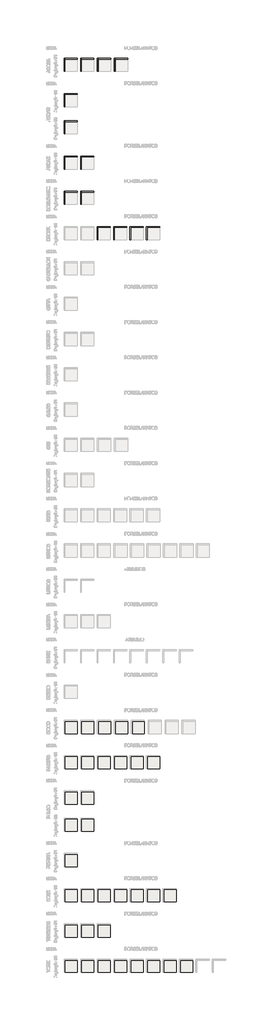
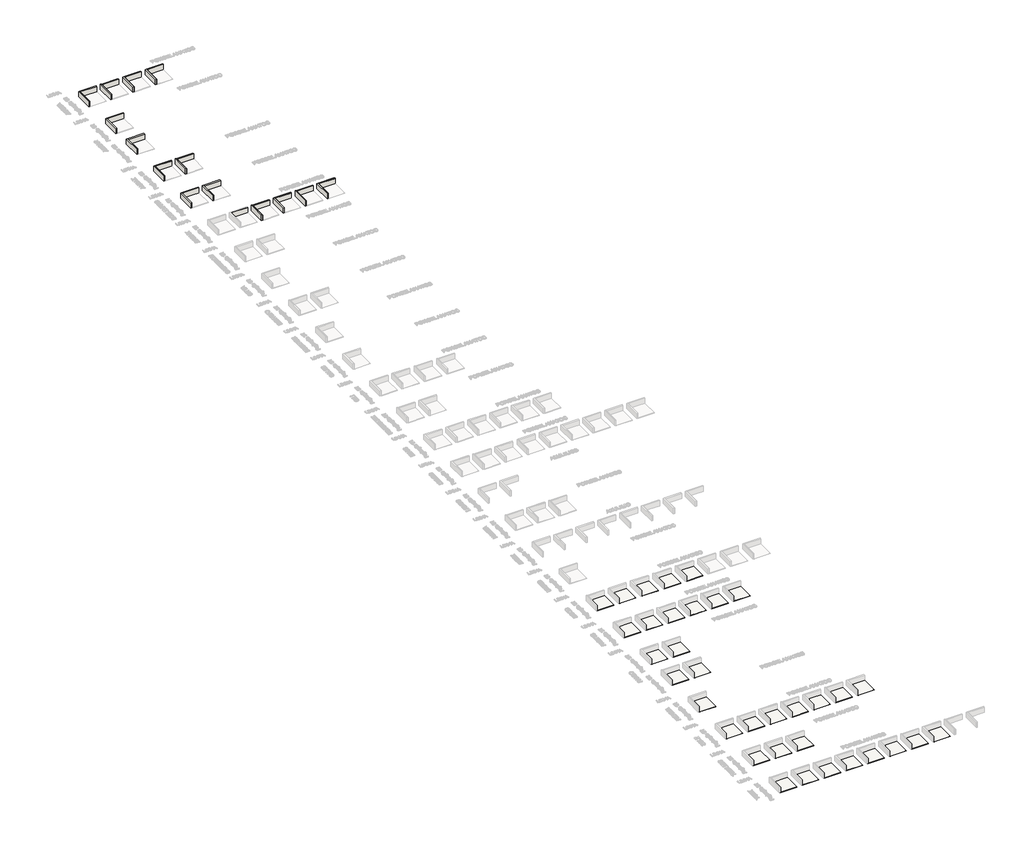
# One storey, part 5 of 22: 57 walls, 34 slabs.
"""IFC4 building model written with IfcOpenShell, lengths in millimetres."""

from ifc_helpers import new_model, si_unit, frame, origin, origin_with_axes, place, context, project, spatial, polyline, outline, extrude, faceted_brep, element, save

model = new_model("IFC4")

# Units and contexts
model_context = context("Model", 3, world=origin())
ifc_project = project(units=[si_unit("LENGTHUNIT", "METRE", prefix="MILLI")], contexts=[model_context])

# Site, building, storey
site = spatial("IfcSite", under=ifc_project)
building = spatial("IfcBuilding", under=site)
storey = spatial("IfcBuildingStorey", under=building, Name="Showroom (N.A.)", Elevation=0.0)

# Slabs
placement = place(None, origin())
element("IfcSlab", 1, ObjectType="Portinari_Mood_WH_LUX_15x15_Pag-1/1", at=placement, inside=storey, context=model_context, shape_type="SweptSolid", body=[
    extrude(outline(polyline([(-107054.0516826, -168275.7728011), (-110054.0516826, -168275.7728011), (-110054.0516826, -165275.7728011), (-107054.0516826, -165275.7728011), (-107054.0516826, -168275.7728011)])), frame((0.0, 0.0, -62.4), z_axis=(0.0, 0.0, 1.0), x_axis=(1.0, 0.0, 0.0)), (0.0, 0.0, 1.0), 62.4),
])
element("IfcSlab", 2, ObjectType="Portinari_Mood_GR_LUX_15x15_Pag-1/1", at=placement, inside=storey, context=model_context, shape_type="SweptSolid", body=[
    extrude(outline(polyline([(-98954.0516826, -168275.7728011), (-101954.0516826, -168275.7728011), (-101954.0516826, -165275.7728011), (-98954.0516826, -165275.7728011), (-98954.0516826, -168275.7728011)])), frame((0.0, 0.0, -62.4), z_axis=(0.0, 0.0, 1.0), x_axis=(1.0, 0.0, 0.0)), (0.0, 0.0, 1.0), 62.4),
])
element("IfcSlab", 3, ObjectType="Portinari_Mood_BW_LUX_15x15_Pag-1/1", at=placement, inside=storey, context=model_context, shape_type="SweptSolid", body=[
    extrude(outline(polyline([(-94854.0516826, -168275.7728011), (-97854.0516826, -168275.7728011), (-97854.0516826, -165275.7728011), (-94854.0516826, -165275.7728011), (-94854.0516826, -168275.7728011)])), frame((0.0, 0.0, -62.4), z_axis=(0.0, 0.0, 1.0), x_axis=(1.0, 0.0, 0.0)), (0.0, 0.0, 1.0), 62.4),
])
element("IfcSlab", 4, ObjectType="Portinari_Mood_AL_LUX_15x15_Pag-1/1", at=placement, inside=storey, context=model_context, shape_type="SweptSolid", body=[
    extrude(outline(polyline([(-103054.0516826, -168275.7728011), (-106054.0516826, -168275.7728011), (-106054.0516826, -165275.7728011), (-103054.0516826, -165275.7728011), (-103054.0516826, -168275.7728011)])), frame((0.0, 0.0, -62.4), z_axis=(0.0, 0.0, 1.0), x_axis=(1.0, 0.0, 0.0)), (0.0, 0.0, 1.0), 62.4),
])
element("IfcSlab", 5, ObjectType="Portinari_Mood_GN_LUX_15x15_Pag-1/1", at=placement, inside=storey, context=model_context, shape_type="SweptSolid", body=[
    extrude(outline(polyline([(-90754.0516826, -168275.7728011), (-93754.0516826, -168275.7728011), (-93754.0516826, -165275.7728011), (-90754.0516826, -165275.7728011), (-90754.0516826, -168275.7728011)])), frame((0.0, 0.0, -62.4), z_axis=(0.0, 0.0, 1.0), x_axis=(1.0, 0.0, 0.0)), (0.0, 0.0, 1.0), 62.4),
])
element("IfcSlab", 6, ObjectType="Portinari_Borda_Mini_Pacific_SBL_HARD_13x201,3_Pag-1/1", at=placement, inside=storey, context=model_context, shape_type="SweptSolid", body=[
    extrude(outline(polyline([(-107054.0516826, -176839.14368), (-110054.0516826, -176839.14368), (-110054.0516826, -173839.14368), (-107054.0516826, -173839.14368), (-107054.0516826, -176839.14368)])), frame((0.0, 0.0, -62.4), z_axis=(0.0, 0.0, 1.0), x_axis=(1.0, 0.0, 0.0)), (0.0, 0.0, 1.0), 62.4),
])
element("IfcSlab", 7, ObjectType="Portinari_Borda_Mini_Pacific_SGN_HARD_13x201,3_Pag-1/1", at=placement, inside=storey, context=model_context, shape_type="SweptSolid", body=[
    extrude(outline(polyline([(-103054.0516826, -176839.14368), (-106054.0516826, -176839.14368), (-106054.0516826, -173839.14368), (-103054.0516826, -173839.14368), (-103054.0516826, -176839.14368)])), frame((0.0, 0.0, -62.4), z_axis=(0.0, 0.0, 1.0), x_axis=(1.0, 0.0, 0.0)), (0.0, 0.0, 1.0), 62.4),
])
element("IfcSlab", 8, ObjectType="Portinari_Pacific_SBL_HARD_20,13x20,13_Pag-1/1", at=placement, inside=storey, context=model_context, shape_type="SweptSolid", body=[
    extrude(outline(polyline([(-99054.0516826, -176839.14368), (-102054.0516826, -176839.14368), (-102054.0516826, -173839.14368), (-99054.0516826, -173839.14368), (-99054.0516826, -176839.14368)])), frame((0.0, 0.0, -62.4), z_axis=(0.0, 0.0, 1.0), x_axis=(1.0, 0.0, 0.0)), (0.0, 0.0, 1.0), 62.4),
])
element("IfcSlab", 9, ObjectType="Portinari_Pacific_SBL_LUX_20,13x20,13_Pag-1/1", at=placement, inside=storey, context=model_context, shape_type="SweptSolid", body=[
    extrude(outline(polyline([(-95054.0516826, -176839.14368), (-98054.0516826, -176839.14368), (-98054.0516826, -173839.14368), (-95054.0516826, -173839.14368), (-95054.0516826, -176839.14368)])), frame((0.0, 0.0, -62.4), z_axis=(0.0, 0.0, 1.0), x_axis=(1.0, 0.0, 0.0)), (0.0, 0.0, 1.0), 62.4),
])
element("IfcSlab", 10, ObjectType="Portinari_Pacific_SGN_HARD_20,13x20,13_Pag-1/1", at=placement, inside=storey, context=model_context, shape_type="SweptSolid", body=[
    extrude(outline(polyline([(-91054.0516826, -176839.14368), (-94054.0516826, -176839.14368), (-94054.0516826, -173839.14368), (-91054.0516826, -173839.14368), (-91054.0516826, -176839.14368)])), frame((0.0, 0.0, -62.4), z_axis=(0.0, 0.0, 1.0), x_axis=(1.0, 0.0, 0.0)), (0.0, 0.0, 1.0), 62.4),
])
element("IfcSlab", 11, ObjectType="Portinari_Pacific_SGN_LUX_20,13x20,13_Pag-1/1", at=placement, inside=storey, context=model_context, shape_type="SweptSolid", body=[
    extrude(outline(polyline([(-87054.0516826, -176839.14368), (-90054.0516826, -176839.14368), (-90054.0516826, -173839.14368), (-87054.0516826, -173839.14368), (-87054.0516826, -176839.14368)])), frame((0.0, 0.0, -62.4), z_axis=(0.0, 0.0, 1.0), x_axis=(1.0, 0.0, 0.0)), (0.0, 0.0, 1.0), 62.4),
])
element("IfcSlab", 12, ObjectType="Portinari_Palco_Deck_BE_HARD_19x117_Pag-1/1", at=placement, inside=storey, context=model_context, shape_type="SweptSolid", body=[
    extrude(outline(polyline([(-107054.0516826, -185402.5145588), (-110054.0516826, -185402.5145588), (-110054.0516826, -182402.5145588), (-107054.0516826, -182402.5145588), (-107054.0516826, -185402.5145588)])), frame((0.0, 0.0, -65.0), z_axis=(0.0, 0.0, 1.0), x_axis=(1.0, 0.0, 0.0)), (0.0, 0.0, 1.0), 65.0),
])
element("IfcSlab", 13, ObjectType="Portinari_Palco_Deck_BE_HARD_19x117_Pag-1/2", at=placement, inside=storey, context=model_context, shape_type="SweptSolid", body=[
    extrude(outline(polyline([(-107054.0516826, -192002.5145588), (-110054.0516826, -192002.5145588), (-110054.0516826, -189002.5145588), (-107054.0516826, -189002.5145588), (-107054.0516826, -192002.5145588)])), frame((0.0, 0.0, -65.0), z_axis=(0.0, 0.0, 1.0), x_axis=(1.0, 0.0, 0.0)), (0.0, 0.0, 1.0), 65.0),
])
element("IfcSlab", 14, ObjectType="Portinari_Palco_Deck_BW_HARD_19x117_Pag-1/1", at=placement, inside=storey, context=model_context, shape_type="SweptSolid", body=[
    extrude(outline(polyline([(-103054.0516826, -185402.5145588), (-106054.0516826, -185402.5145588), (-106054.0516826, -182402.5145588), (-103054.0516826, -182402.5145588), (-103054.0516826, -185402.5145588)])), frame((0.0, 0.0, -65.0), z_axis=(0.0, 0.0, 1.0), x_axis=(1.0, 0.0, 0.0)), (0.0, 0.0, 1.0), 65.0),
])
element("IfcSlab", 15, ObjectType="Portinari_Palco_Deck_BW_HARD_19x117_Pag-1/2", at=placement, inside=storey, context=model_context, shape_type="SweptSolid", body=[
    extrude(outline(polyline([(-103054.0516826, -192002.5145588), (-106054.0516826, -192002.5145588), (-106054.0516826, -189002.5145588), (-103054.0516826, -189002.5145588), (-103054.0516826, -192002.5145588)])), frame((0.0, 0.0, -65.0), z_axis=(0.0, 0.0, 1.0), x_axis=(1.0, 0.0, 0.0)), (0.0, 0.0, 1.0), 65.0),
])
element("IfcSlab", 16, ObjectType="Portinari_Pierina_BK_NAT_80x160_Pag-1/1", at=placement, inside=storey, context=model_context, shape_type="SweptSolid", body=[
    extrude(outline(polyline([(-107054.0516826, -200565.8854377), (-110054.0516826, -200565.8854377), (-110054.0516826, -197565.8854377), (-107054.0516826, -197565.8854377), (-107054.0516826, -200565.8854377)])), frame((0.0, 0.0, -64.0), z_axis=(0.0, 0.0, 1.0), x_axis=(1.0, 0.0, 0.0)), (0.0, 0.0, 1.0), 64.0),
])
element("IfcSlab", 17, ObjectType="Portinari_Sole_BW_NAT_100x100_Pag-1/1", at=placement, inside=storey, context=model_context, shape_type="SweptSolid", body=[
    extrude(outline(polyline([(-107054.0516826, -209129.2563166), (-110054.0516826, -209129.2563166), (-110054.0516826, -206129.2563166), (-107054.0516826, -206129.2563166), (-107054.0516826, -209129.2563166)])), frame((0.0, 0.0, -65.0), z_axis=(0.0, 0.0, 1.0), x_axis=(1.0, 0.0, 0.0)), (0.0, 0.0, 1.0), 65.0),
])
element("IfcSlab", 18, ObjectType="Portinari_Sole_BW_HARD_100x100_Pag-1/1", at=placement, inside=storey, context=model_context, shape_type="SweptSolid", body=[
    extrude(outline(polyline([(-106054.0516826, -206129.2563166), (-103054.0516826, -206129.2563166), (-103054.0516826, -209129.2563166), (-106054.0516826, -209129.2563166), (-106054.0516826, -206129.2563166)])), frame((0.0, 0.0, -65.0), z_axis=(0.0, 0.0, 1.0), x_axis=(1.0, 0.0, 0.0)), (0.0, 0.0, 1.0), 65.0),
])
element("IfcSlab", 19, ObjectType="Portinari_Sole_Decor_GN_NAT_4,82x40_Pag-1/1", at=placement, inside=storey, context=model_context, shape_type="SweptSolid", body=[
    extrude(outline(polyline([(-102054.0516826, -206129.2563166), (-99054.0516826, -206129.2563166), (-99054.0516826, -209129.2563166), (-102054.0516826, -209129.2563166), (-102054.0516826, -206129.2563166)])), frame((0.0, 0.0, -62.4), z_axis=(0.0, 0.0, 1.0), x_axis=(1.0, 0.0, 0.0)), (0.0, 0.0, 1.0), 62.4),
])
element("IfcSlab", 20, ObjectType="Portinari_Sole_Decor_YL_NAT_4,82x40_Pag-1/1", at=placement, inside=storey, context=model_context, shape_type="SweptSolid", body=[
    extrude(outline(polyline([(-98054.0516826, -206129.2563166), (-95054.0516826, -206129.2563166), (-95054.0516826, -209129.2563166), (-98054.0516826, -209129.2563166), (-98054.0516826, -206129.2563166)])), frame((0.0, 0.0, -62.4), z_axis=(0.0, 0.0, 1.0), x_axis=(1.0, 0.0, 0.0)), (0.0, 0.0, 1.0), 62.4),
])
element("IfcSlab", 21, ObjectType="Portinari_Sole_Decor_SBE_NAT_4,82x40_Pag-1/1", at=placement, inside=storey, context=model_context, shape_type="SweptSolid", body=[
    extrude(outline(polyline([(-94054.0516826, -206129.2563166), (-91054.0516826, -206129.2563166), (-91054.0516826, -209129.2563166), (-94054.0516826, -209129.2563166), (-94054.0516826, -206129.2563166)])), frame((0.0, 0.0, -62.4), z_axis=(0.0, 0.0, 1.0), x_axis=(1.0, 0.0, 0.0)), (0.0, 0.0, 1.0), 62.4),
])
element("IfcSlab", 22, ObjectType="Portinari_Sole_Decor_NO_NAT_4,82x40_Pag-1/1", at=placement, inside=storey, context=model_context, shape_type="SweptSolid", body=[
    extrude(outline(polyline([(-90054.0516826, -206129.2563166), (-87054.0516826, -206129.2563166), (-87054.0516826, -209129.2563166), (-90054.0516826, -209129.2563166), (-90054.0516826, -206129.2563166)])), frame((0.0, 0.0, -62.4), z_axis=(0.0, 0.0, 1.0), x_axis=(1.0, 0.0, 0.0)), (0.0, 0.0, 1.0), 62.4),
])
element("IfcSlab", 23, ObjectType="Portinari_Sole_Decor_BW_NAT_4,82x40_Pag-1/1", at=placement, inside=storey, context=model_context, shape_type="SweptSolid", body=[
    extrude(outline(polyline([(-86054.0516826, -206129.2563166), (-83054.0516826, -206129.2563166), (-83054.0516826, -209129.2563166), (-86054.0516826, -209129.2563166), (-86054.0516826, -206129.2563166)])), frame((0.0, 0.0, -62.4), z_axis=(0.0, 0.0, 1.0), x_axis=(1.0, 0.0, 0.0)), (0.0, 0.0, 1.0), 62.4),
])
element("IfcSlab", 24, ObjectType="Portinari_Timeless_WH_NAT_120x120_Pag-1/1", at=placement, inside=storey, context=model_context, shape_type="SweptSolid", body=[
    extrude(outline(polyline([(-107054.0516826, -217692.6271954), (-110054.0516826, -217692.6271954), (-110054.0516826, -214692.6271954), (-107054.0516826, -214692.6271954), (-107054.0516826, -217692.6271954)])), frame((0.0, 0.0, -64.2), z_axis=(0.0, 0.0, 1.0), x_axis=(1.0, 0.0, 0.0)), (0.0, 0.0, 1.0), 64.2),
])
element("IfcSlab", 25, ObjectType="Portinari_Timeless_WH_POL_120x120_Pag-1/1", at=placement, inside=storey, context=model_context, shape_type="SweptSolid", body=[
    extrude(outline(polyline([(-106054.0516826, -214692.6271954), (-103054.0516826, -214692.6271954), (-103054.0516826, -217692.6271954), (-106054.0516826, -217692.6271954), (-106054.0516826, -214692.6271954)])), frame((0.0, 0.0, -64.2), z_axis=(0.0, 0.0, 1.0), x_axis=(1.0, 0.0, 0.0)), (0.0, 0.0, 1.0), 64.2),
])
element("IfcSlab", 26, ObjectType="Portinari_Timeless_WH_POL_120x270_Pag-1/1", at=placement, inside=storey, context=model_context, shape_type="SweptSolid", body=[
    extrude(outline(polyline([(-102054.0516826, -214692.6271954), (-99054.0516826, -214692.6271954), (-99054.0516826, -217692.6271954), (-102054.0516826, -217692.6271954), (-102054.0516826, -214692.6271954)])), frame((0.0, 0.0, -64.0), z_axis=(0.0, 0.0, 1.0), x_axis=(1.0, 0.0, 0.0)), (0.0, 0.0, 1.0), 64.0),
])
element("IfcSlab", 27, ObjectType="Portinari_York_BE_NAT_120x120_Pag-1/1", at=placement, inside=storey, context=model_context, shape_type="SweptSolid", body=[
    extrude(outline(polyline([(-107054.0516826, -226255.9980743), (-110054.0516826, -226255.9980743), (-110054.0516826, -223255.9980743), (-107054.0516826, -223255.9980743), (-107054.0516826, -226255.9980743)])), frame((0.0, 0.0, -64.2), z_axis=(0.0, 0.0, 1.0), x_axis=(1.0, 0.0, 0.0)), (0.0, 0.0, 1.0), 64.2),
])
element("IfcSlab", 28, ObjectType="Portinari_York_BE_HARD_120x120_Pag-1/1", at=placement, inside=storey, context=model_context, shape_type="SweptSolid", body=[
    extrude(outline(polyline([(-106054.0516826, -223255.9980743), (-103054.0516826, -223255.9980743), (-103054.0516826, -226255.9980743), (-106054.0516826, -226255.9980743), (-106054.0516826, -223255.9980743)])), frame((0.0, 0.0, -64.2), z_axis=(0.0, 0.0, 1.0), x_axis=(1.0, 0.0, 0.0)), (0.0, 0.0, 1.0), 64.2),
])
element("IfcSlab", 29, ObjectType="Portinari_York_SGR_NAT_120x120_Pag-1/1", at=placement, inside=storey, context=model_context, shape_type="SweptSolid", body=[
    extrude(outline(polyline([(-102054.0516826, -223255.9980743), (-99054.0516826, -223255.9980743), (-99054.0516826, -226255.9980743), (-102054.0516826, -226255.9980743), (-102054.0516826, -223255.9980743)])), frame((0.0, 0.0, -64.2), z_axis=(0.0, 0.0, 1.0), x_axis=(1.0, 0.0, 0.0)), (0.0, 0.0, 1.0), 64.2),
])
element("IfcSlab", 30, ObjectType="Portinari_York_SGR_HARD_120x120_Pag-1/1", at=placement, inside=storey, context=model_context, shape_type="SweptSolid", body=[
    extrude(outline(polyline([(-98054.0516826, -223255.9980743), (-95054.0516826, -223255.9980743), (-95054.0516826, -226255.9980743), (-98054.0516826, -226255.9980743), (-98054.0516826, -223255.9980743)])), frame((0.0, 0.0, -64.2), z_axis=(0.0, 0.0, 1.0), x_axis=(1.0, 0.0, 0.0)), (0.0, 0.0, 1.0), 64.2),
])
element("IfcSlab", 31, ObjectType="Portinari_York_WH_NAT_120x120_Pag-1/1", at=placement, inside=storey, context=model_context, shape_type="SweptSolid", body=[
    extrude(outline(polyline([(-94054.0516826, -223255.9980743), (-91054.0516826, -223255.9980743), (-91054.0516826, -226255.9980743), (-94054.0516826, -226255.9980743), (-94054.0516826, -223255.9980743)])), frame((0.0, 0.0, -64.2), z_axis=(0.0, 0.0, 1.0), x_axis=(1.0, 0.0, 0.0)), (0.0, 0.0, 1.0), 64.2),
])
element("IfcSlab", 32, ObjectType="Portinari_York_BE_POL_120x120_Pag-1/1", at=placement, inside=storey, context=model_context, shape_type="SweptSolid", body=[
    extrude(outline(polyline([(-90054.0516826, -223255.9980743), (-87054.0516826, -223255.9980743), (-87054.0516826, -226255.9980743), (-90054.0516826, -226255.9980743), (-90054.0516826, -223255.9980743)])), frame((0.0, 0.0, -64.2), z_axis=(0.0, 0.0, 1.0), x_axis=(1.0, 0.0, 0.0)), (0.0, 0.0, 1.0), 64.2),
])
element("IfcSlab", 33, ObjectType="Portinari_York_SGR_POL_120x120_Pag-1/1", at=placement, inside=storey, context=model_context, shape_type="SweptSolid", body=[
    extrude(outline(polyline([(-86054.0516826, -223255.9980743), (-83054.0516826, -223255.9980743), (-83054.0516826, -226255.9980743), (-86054.0516826, -226255.9980743), (-86054.0516826, -223255.9980743)])), frame((0.0, 0.0, -64.2), z_axis=(0.0, 0.0, 1.0), x_axis=(1.0, 0.0, 0.0)), (0.0, 0.0, 1.0), 64.2),
])
element("IfcSlab", 34, ObjectType="Portinari_York_WH_POL_120x120_Pag-1/1", at=placement, inside=storey, context=model_context, shape_type="SweptSolid", body=[
    extrude(outline(polyline([(-82054.0516826, -223255.9980743), (-79054.0516826, -223255.9980743), (-79054.0516826, -226255.9980743), (-82054.0516826, -226255.9980743), (-82054.0516826, -223255.9980743)])), frame((0.0, 0.0, -64.2), z_axis=(0.0, 0.0, 1.0), x_axis=(1.0, 0.0, 0.0)), (0.0, 0.0, 1.0), 64.2),
])

# Walls
element("IfcWall", 35, ObjectType="Portinari_Acqua_GN_NAT_9,95X9,95_Pag-1/1", at=placement, inside=storey, context=model_context, shape_type="Brep", body=[
    faceted_brep([(-107054.0516826, -4535.0969817, 0.0), (-110054.0516826, -4535.0969817, 0.0), (-110054.0516826, -4535.0969817, 1000.0), (-107054.0516826, -4535.0969817, 1000.0), (-107054.0516826, -4547.4969817, 0.0), (-107054.0516826, -4547.4969817, 1000.0), (-110041.6516826, -4547.4969817, 1000.0), (-110054.0516826, -4547.4969817, 1000.0), (-110054.0516826, -4547.4969817, 0.0), (-110041.6516826, -4547.4969817, 0.0)], [[[0, 1, 2, 3]], [[4, 5, 6, 7, 8, 9]], [[1, 0, 4, 9, 8]], [[3, 2, 7, 6, 5]], [[0, 3, 5, 4]], [[2, 1, 8, 7]]]),
])
element("IfcWall", 36, ObjectType="Portinari_Acqua_GN_NAT_9,95X9,95_Pag-1/1", at=placement, inside=storey, context=model_context, shape_type="SweptSolid", body=[
    extrude(outline(polyline([(-110054.0516826, -7535.0969817), (-110054.0516826, -4547.4969817), (-110041.6516826, -4547.4969817), (-110041.6516826, -7535.0969817), (-110054.0516826, -7535.0969817)])), origin_with_axes(), (0.0, 0.0, 1.0), 1000.0),
])
element("IfcWall", 37, ObjectType="Portinari_Acqua_GN_NAT_15x15_Pag-1/1", at=placement, inside=storey, context=model_context, shape_type="Brep", body=[
    faceted_brep([(-103054.0516826, -4535.0969817, 0.0), (-106054.0516826, -4535.0969817, 0.0), (-106054.0516826, -4535.0969817, 1000.0), (-103054.0516826, -4535.0969817, 1000.0), (-103054.0516826, -4547.4969817, 0.0), (-103054.0516826, -4547.4969817, 1000.0), (-106041.6516826, -4547.4969817, 1000.0), (-106054.0516826, -4547.4969817, 1000.0), (-106054.0516826, -4547.4969817, 0.0), (-106041.6516826, -4547.4969817, 0.0)], [[[0, 1, 2, 3]], [[4, 5, 6, 7, 8, 9]], [[1, 0, 4, 9, 8]], [[3, 2, 7, 6, 5]], [[0, 3, 5, 4]], [[2, 1, 8, 7]]]),
])
element("IfcWall", 38, ObjectType="Portinari_Acqua_GN_NAT_15x15_Pag-1/1", at=placement, inside=storey, context=model_context, shape_type="SweptSolid", body=[
    extrude(outline(polyline([(-106054.0516826, -7535.0969817), (-106054.0516826, -4547.4969817), (-106041.6516826, -4547.4969817), (-106041.6516826, -7535.0969817), (-106054.0516826, -7535.0969817)])), origin_with_axes(), (0.0, 0.0, 1.0), 1000.0),
])
element("IfcWall", 39, ObjectType="Portinari_Acqua_OFW_15x15_Pag-1/1", at=placement, inside=storey, context=model_context, shape_type="Brep", body=[
    faceted_brep([(-98954.0516826, -4535.0969817, 0.0), (-101954.0516826, -4535.0969817, 0.0), (-101954.0516826, -4535.0969817, 1000.0), (-98954.0516826, -4535.0969817, 1000.0), (-98954.0516826, -4547.4969817, 0.0), (-98954.0516826, -4547.4969817, 1000.0), (-101941.6516826, -4547.4969817, 1000.0), (-101954.0516826, -4547.4969817, 1000.0), (-101954.0516826, -4547.4969817, 0.0), (-101941.6516826, -4547.4969817, 0.0)], [[[0, 1, 2, 3]], [[4, 5, 6, 7, 8, 9]], [[1, 0, 4, 9, 8]], [[3, 2, 7, 6, 5]], [[0, 3, 5, 4]], [[2, 1, 8, 7]]]),
])
element("IfcWall", 40, ObjectType="Portinari_Acqua_OFW_15x15_Pag-1/1", at=placement, inside=storey, context=model_context, shape_type="SweptSolid", body=[
    extrude(outline(polyline([(-101954.0516826, -7535.0969817), (-101954.0516826, -4547.4969817), (-101941.6516826, -4547.4969817), (-101941.6516826, -7535.0969817), (-101954.0516826, -7535.0969817)])), origin_with_axes(), (0.0, 0.0, 1.0), 1000.0),
])
element("IfcWall", 41, ObjectType="Portinari_Acqua_SGN_15x15_Pag-1/1", at=placement, inside=storey, context=model_context, shape_type="Brep", body=[
    faceted_brep([(-94854.0516826, -4535.0969817, 0.0), (-97854.0516826, -4535.0969817, 0.0), (-97854.0516826, -4535.0969817, 1000.0), (-94854.0516826, -4535.0969817, 1000.0), (-94854.0516826, -4547.4969817, 0.0), (-94854.0516826, -4547.4969817, 1000.0), (-97841.6516826, -4547.4969817, 1000.0), (-97854.0516826, -4547.4969817, 1000.0), (-97854.0516826, -4547.4969817, 0.0), (-97841.6516826, -4547.4969817, 0.0)], [[[0, 1, 2, 3]], [[4, 5, 6, 7, 8, 9]], [[1, 0, 4, 9, 8]], [[3, 2, 7, 6, 5]], [[0, 3, 5, 4]], [[2, 1, 8, 7]]]),
])
element("IfcWall", 42, ObjectType="Portinari_Acqua_SGN_15x15_Pag-1/1", at=placement, inside=storey, context=model_context, shape_type="SweptSolid", body=[
    extrude(outline(polyline([(-97854.0516826, -7535.0969817), (-97854.0516826, -4547.4969817), (-97841.6516826, -4547.4969817), (-97841.6516826, -7535.0969817), (-97854.0516826, -7535.0969817)])), origin_with_axes(), (0.0, 0.0, 1.0), 1000.0),
])
element("IfcWall", 43, ObjectType="Portinari_Ambar_BW_NAT_29,1x117_Pag-1/1", at=placement, inside=storey, context=model_context, shape_type="Brep", body=[
    faceted_brep([(-107054.0516826, -13098.4678605, 0.0), (-110054.0516826, -13098.4678605, 0.0), (-110054.0516826, -13098.4678605, 1000.0), (-107054.0516826, -13098.4678605, 1000.0), (-107054.0516826, -13113.6678605, 0.0), (-107054.0516826, -13113.6678605, 1000.0), (-110038.8516826, -13113.6678605, 1000.0), (-110054.0516826, -13113.6678605, 1000.0), (-110054.0516826, -13113.6678605, 0.0), (-110038.8516826, -13113.6678605, 0.0)], [[[0, 1, 2, 3]], [[4, 5, 6, 7, 8, 9]], [[1, 0, 4, 9, 8]], [[3, 2, 7, 6, 5]], [[0, 3, 5, 4]], [[2, 1, 8, 7]]]),
])
element("IfcWall", 44, ObjectType="Portinari_Ambar_BW_NAT_29,1x117_Pag-1/1", at=placement, inside=storey, context=model_context, shape_type="SweptSolid", body=[
    extrude(outline(polyline([(-110054.0516826, -16098.4678605), (-110054.0516826, -13113.6678605), (-110038.8516826, -13113.6678605), (-110038.8516826, -16098.4678605), (-110054.0516826, -16098.4678605)])), origin_with_axes(), (0.0, 0.0, 1.0), 1000.0),
])
element("IfcWall", 45, ObjectType="Portinari_Ambar_BW_NAT_29,1x117_Pag-1/2", at=placement, inside=storey, context=model_context, shape_type="Brep", body=[
    faceted_brep([(-107054.0516826, -19698.4678605, 0.0), (-110054.0516826, -19698.4678605, 0.0), (-110054.0516826, -19698.4678605, 1000.0), (-107054.0516826, -19698.4678605, 1000.0), (-107054.0516826, -19713.6678605, 0.0), (-107054.0516826, -19713.6678605, 1000.0), (-110038.8516826, -19713.6678605, 1000.0), (-110054.0516826, -19713.6678605, 1000.0), (-110054.0516826, -19713.6678605, 0.0), (-110038.8516826, -19713.6678605, 0.0)], [[[0, 1, 2, 3]], [[4, 5, 6, 7, 8, 9]], [[1, 0, 4, 9, 8]], [[3, 2, 7, 6, 5]], [[0, 3, 5, 4]], [[2, 1, 8, 7]]]),
])
element("IfcWall", 46, ObjectType="Portinari_Ambar_BW_NAT_29,1x117_Pag-1/2", at=placement, inside=storey, context=model_context, shape_type="SweptSolid", body=[
    extrude(outline(polyline([(-110054.0516826, -22698.4678605), (-110054.0516826, -19713.6678605), (-110038.8516826, -19713.6678605), (-110038.8516826, -22698.4678605), (-110054.0516826, -22698.4678605)])), origin_with_axes(), (0.0, 0.0, 1.0), 1000.0),
])
element("IfcWall", 47, ObjectType="Portinari_Audaz_DGR_NAT_120x120_Pag-1/1", at=placement, inside=storey, context=model_context, shape_type="Brep", body=[
    faceted_brep([(-107054.0516826, -28261.8387394, 0.0), (-110054.0516826, -28261.8387394, 0.0), (-110054.0516826, -28261.8387394, 1000.0), (-107054.0516826, -28261.8387394, 1000.0), (-107054.0516826, -28276.0387394, 0.0), (-107054.0516826, -28276.0387394, 1000.0), (-110039.8516826, -28276.0387394, 1000.0), (-110054.0516826, -28276.0387394, 1000.0), (-110054.0516826, -28276.0387394, 0.0), (-110039.8516826, -28276.0387394, 0.0)], [[[0, 1, 2, 3]], [[4, 5, 6, 7, 8, 9]], [[1, 0, 4, 9, 8]], [[3, 2, 7, 6, 5]], [[0, 3, 5, 4]], [[2, 1, 8, 7]]]),
])
element("IfcWall", 48, ObjectType="Portinari_Audaz_DGR_NAT_120x120_Pag-1/1", at=placement, inside=storey, context=model_context, shape_type="SweptSolid", body=[
    extrude(outline(polyline([(-110054.0516826, -31261.8387394), (-110054.0516826, -28276.0387394), (-110039.8516826, -28276.0387394), (-110039.8516826, -31261.8387394), (-110054.0516826, -31261.8387394)])), origin_with_axes(), (0.0, 0.0, 1.0), 1000.0),
])
element("IfcWall", 49, ObjectType="Portinari_Audaz_DGR_NAT_119,4x280_Pag-1/1", at=placement, inside=storey, context=model_context, shape_type="Brep", body=[
    faceted_brep([(-103054.0516826, -28261.8387394, 0.0), (-106054.0516826, -28261.8387394, 0.0), (-106054.0516826, -28261.8387394, 1000.0), (-103054.0516826, -28261.8387394, 1000.0), (-103054.0516826, -28272.8387394, 0.0), (-103054.0516826, -28272.8387394, 1000.0), (-106043.0516826, -28272.8387394, 1000.0), (-106054.0516826, -28272.8387394, 1000.0), (-106054.0516826, -28272.8387394, 0.0), (-106043.0516826, -28272.8387394, 0.0)], [[[0, 1, 2, 3]], [[4, 5, 6, 7, 8, 9]], [[1, 0, 4, 9, 8]], [[3, 2, 7, 6, 5]], [[0, 3, 5, 4]], [[2, 1, 8, 7]]]),
])
element("IfcWall", 50, ObjectType="Portinari_Audaz_DGR_NAT_119,4x280_Pag-1/1", at=placement, inside=storey, context=model_context, shape_type="SweptSolid", body=[
    extrude(outline(polyline([(-106054.0516826, -31261.8387394), (-106054.0516826, -28272.8387394), (-106043.0516826, -28272.8387394), (-106043.0516826, -31261.8387394), (-106054.0516826, -31261.8387394)])), origin_with_axes(), (0.0, 0.0, 1.0), 1000.0),
])
element("IfcWall", 51, ObjectType="Portinari_Boulevard_SGR_HARD_87,7x87,7_Pag-1/1", at=placement, inside=storey, context=model_context, shape_type="Brep", body=[
    faceted_brep([(-107054.0516826, -36825.2096182, 0.0), (-110054.0516826, -36825.2096182, 0.0), (-110054.0516826, -36825.2096182, 1000.0), (-107054.0516826, -36825.2096182, 1000.0), (-107054.0516826, -36839.2096182, 0.0), (-107054.0516826, -36839.2096182, 1000.0), (-110040.0516826, -36839.2096182, 1000.0), (-110054.0516826, -36839.2096182, 1000.0), (-110054.0516826, -36839.2096182, 0.0), (-110040.0516826, -36839.2096182, 0.0)], [[[0, 1, 2, 3]], [[4, 5, 6, 7, 8, 9]], [[1, 0, 4, 9, 8]], [[3, 2, 7, 6, 5]], [[0, 3, 5, 4]], [[2, 1, 8, 7]]]),
])
element("IfcWall", 52, ObjectType="Portinari_Boulevard_SGR_HARD_87,7x87,7_Pag-1/1", at=placement, inside=storey, context=model_context, shape_type="SweptSolid", body=[
    extrude(outline(polyline([(-110054.0516826, -39825.2096182), (-110054.0516826, -36839.2096182), (-110040.0516826, -36839.2096182), (-110040.0516826, -39825.2096182), (-110054.0516826, -39825.2096182)])), origin_with_axes(), (0.0, 0.0, 1.0), 1000.0),
])
element("IfcWall", 53, ObjectType="Portinari_Boulevard_SGR_NAT_87,7x87,7_Pag-1/1", at=placement, inside=storey, context=model_context, shape_type="Brep", body=[
    faceted_brep([(-103054.0516826, -36825.2096182, 0.0), (-106054.0516826, -36825.2096182, 0.0), (-106054.0516826, -36825.2096182, 1000.0), (-103054.0516826, -36825.2096182, 1000.0), (-103054.0516826, -36839.2096182, 0.0), (-103054.0516826, -36839.2096182, 1000.0), (-106040.0516826, -36839.2096182, 1000.0), (-106054.0516826, -36839.2096182, 1000.0), (-106054.0516826, -36839.2096182, 0.0), (-106040.0516826, -36839.2096182, 0.0)], [[[0, 1, 2, 3]], [[4, 5, 6, 7, 8, 9]], [[1, 0, 4, 9, 8]], [[3, 2, 7, 6, 5]], [[0, 3, 5, 4]], [[2, 1, 8, 7]]]),
])
element("IfcWall", 54, ObjectType="Portinari_Boulevard_SGR_NAT_87,7x87,7_Pag-1/1", at=placement, inside=storey, context=model_context, shape_type="SweptSolid", body=[
    extrude(outline(polyline([(-106054.0516826, -39825.2096182), (-106054.0516826, -36839.2096182), (-106040.0516826, -36839.2096182), (-106040.0516826, -39825.2096182), (-106054.0516826, -39825.2096182)])), origin_with_axes(), (0.0, 0.0, 1.0), 1000.0),
])
element("IfcWall", 55, ObjectType="Portinari_Bronx_GR_HARD_120x120_Pag-1/1", at=placement, inside=storey, context=model_context, shape_type="Brep", body=[
    faceted_brep([(-103054.0516826, -45388.5804971, 0.0), (-106054.0516826, -45388.5804971, 0.0), (-106054.0516826, -45388.5804971, 1000.0), (-103054.0516826, -45388.5804971, 1000.0), (-103054.0516826, -45402.7804971, 0.0), (-103054.0516826, -45402.7804971, 1000.0), (-106039.8516826, -45402.7804971, 1000.0), (-106054.0516826, -45402.7804971, 1000.0), (-106054.0516826, -45402.7804971, 0.0), (-106039.8516826, -45402.7804971, 0.0)], [[[0, 1, 2, 3]], [[4, 5, 6, 7, 8, 9]], [[1, 0, 4, 9, 8]], [[3, 2, 7, 6, 5]], [[0, 3, 5, 4]], [[2, 1, 8, 7]]]),
])
element("IfcWall", 56, ObjectType="Portinari_Bronx_Decor_BK_MLX_7,7x24_Pag-1/1", at=placement, inside=storey, context=model_context, shape_type="Brep", body=[
    faceted_brep([(-99054.0516826, -45388.5804971, 0.0), (-102054.0516826, -45388.5804971, 0.0), (-102054.0516826, -45388.5804971, 1000.0), (-99054.0516826, -45388.5804971, 1000.0), (-99054.0516826, -45400.9804971, 0.0), (-99054.0516826, -45400.9804971, 1000.0), (-102041.6516826, -45400.9804971, 1000.0), (-102054.0516826, -45400.9804971, 1000.0), (-102054.0516826, -45400.9804971, 0.0), (-102041.6516826, -45400.9804971, 0.0)], [[[0, 1, 2, 3]], [[4, 5, 6, 7, 8, 9]], [[1, 0, 4, 9, 8]], [[3, 2, 7, 6, 5]], [[0, 3, 5, 4]], [[2, 1, 8, 7]]]),
])
element("IfcWall", 57, ObjectType="Portinari_Bronx_Decor_BK_MLX_7,7x24_Pag-1/1", at=placement, inside=storey, context=model_context, shape_type="SweptSolid", body=[
    extrude(outline(polyline([(-102054.0516826, -48388.5804971), (-102054.0516826, -45400.9804971), (-102041.6516826, -45400.9804971), (-102041.6516826, -48388.5804971), (-102054.0516826, -48388.5804971)])), origin_with_axes(), (0.0, 0.0, 1.0), 1000.0),
])
element("IfcWall", 58, ObjectType="Portinari_Bronx_Decor_DBL_MLX_7,7x24_Pag-1/1", at=placement, inside=storey, context=model_context, shape_type="Brep", body=[
    faceted_brep([(-95054.0516826, -45388.5804971, 0.0), (-98054.0516826, -45388.5804971, 0.0), (-98054.0516826, -45388.5804971, 1000.0), (-95054.0516826, -45388.5804971, 1000.0), (-95054.0516826, -45400.9804971, 0.0), (-95054.0516826, -45400.9804971, 1000.0), (-98041.6516826, -45400.9804971, 1000.0), (-98054.0516826, -45400.9804971, 1000.0), (-98054.0516826, -45400.9804971, 0.0), (-98041.6516826, -45400.9804971, 0.0)], [[[0, 1, 2, 3]], [[4, 5, 6, 7, 8, 9]], [[1, 0, 4, 9, 8]], [[3, 2, 7, 6, 5]], [[0, 3, 5, 4]], [[2, 1, 8, 7]]]),
])
element("IfcWall", 59, ObjectType="Portinari_Bronx_Decor_DBL_MLX_7,7x24_Pag-1/1", at=placement, inside=storey, context=model_context, shape_type="SweptSolid", body=[
    extrude(outline(polyline([(-98054.0516826, -48388.5804971), (-98054.0516826, -45400.9804971), (-98041.6516826, -45400.9804971), (-98041.6516826, -48388.5804971), (-98054.0516826, -48388.5804971)])), origin_with_axes(), (0.0, 0.0, 1.0), 1000.0),
])
element("IfcWall", 60, ObjectType="Portinari_Bronx_Decor_RD_MLX_7,7x24_Pag-1/1", at=placement, inside=storey, context=model_context, shape_type="Brep", body=[
    faceted_brep([(-91054.0516826, -45388.5804971, 0.0), (-94054.0516826, -45388.5804971, 0.0), (-94054.0516826, -45388.5804971, 1000.0), (-91054.0516826, -45388.5804971, 1000.0), (-91054.0516826, -45400.9804971, 0.0), (-91054.0516826, -45400.9804971, 1000.0), (-94041.6516826, -45400.9804971, 1000.0), (-94054.0516826, -45400.9804971, 1000.0), (-94054.0516826, -45400.9804971, 0.0), (-94041.6516826, -45400.9804971, 0.0)], [[[0, 1, 2, 3]], [[4, 5, 6, 7, 8, 9]], [[1, 0, 4, 9, 8]], [[3, 2, 7, 6, 5]], [[0, 3, 5, 4]], [[2, 1, 8, 7]]]),
])
element("IfcWall", 61, ObjectType="Portinari_Bronx_Decor_RD_MLX_7,7x24_Pag-1/1", at=placement, inside=storey, context=model_context, shape_type="SweptSolid", body=[
    extrude(outline(polyline([(-94054.0516826, -48388.5804971), (-94054.0516826, -45400.9804971), (-94041.6516826, -45400.9804971), (-94041.6516826, -48388.5804971), (-94054.0516826, -48388.5804971)])), origin_with_axes(), (0.0, 0.0, 1.0), 1000.0),
])
element("IfcWall", 62, ObjectType="Portinari_Bronx_Decor_DGR_MLX_7,7x24_Pag-1/1", at=placement, inside=storey, context=model_context, shape_type="Brep", body=[
    faceted_brep([(-87054.0516826, -45388.5804971, 0.0), (-90054.0516826, -45388.5804971, 0.0), (-90054.0516826, -45388.5804971, 1000.0), (-87054.0516826, -45388.5804971, 1000.0), (-87054.0516826, -45400.9804971, 0.0), (-87054.0516826, -45400.9804971, 1000.0), (-90041.6516826, -45400.9804971, 1000.0), (-90054.0516826, -45400.9804971, 1000.0), (-90054.0516826, -45400.9804971, 0.0), (-90041.6516826, -45400.9804971, 0.0)], [[[0, 1, 2, 3]], [[4, 5, 6, 7, 8, 9]], [[1, 0, 4, 9, 8]], [[3, 2, 7, 6, 5]], [[0, 3, 5, 4]], [[2, 1, 8, 7]]]),
])
element("IfcWall", 63, ObjectType="Portinari_Bronx_Decor_DGR_MLX_7,7x24_Pag-1/1", at=placement, inside=storey, context=model_context, shape_type="SweptSolid", body=[
    extrude(outline(polyline([(-90054.0516826, -48388.5804971), (-90054.0516826, -45400.9804971), (-90041.6516826, -45400.9804971), (-90041.6516826, -48388.5804971), (-90054.0516826, -48388.5804971)])), origin_with_axes(), (0.0, 0.0, 1.0), 1000.0),
])
element("IfcWall", 64, ObjectType="Wall 1", at=placement, inside=storey, context=model_context, shape_type="Brep", body=[
    faceted_brep([(-110054.0516826, -7535.0969817, 0.0), (-110054.0516826, -4535.0969817, 0.0), (-110054.0516826, -4335.0969817, 0.0), (-110054.0516826, -4335.0969817, 1000.0), (-110054.0516826, -4535.0969817, 1000.0), (-110054.0516826, -7535.0969817, 1000.0), (-110254.0516826, -7535.0969817, 0.0), (-110254.0516826, -7535.0969817, 1000.0), (-110254.0516826, -4335.0969817, 1000.0), (-110254.0516826, -4335.0969817, 0.0)], [[[0, 1, 2, 3, 4, 5]], [[6, 7, 8, 9]], [[2, 1, 0, 6, 9]], [[5, 4, 3, 8, 7]], [[0, 5, 7, 6]], [[3, 2, 9, 8]]]),
])
element("IfcWall", 65, ObjectType="Wall 1", at=placement, inside=storey, context=model_context, shape_type="SweptSolid", body=[
    extrude(outline(polyline([(-107054.0516826, -4535.0969817), (-110054.0516826, -4535.0969817), (-110054.0516826, -4335.0969817), (-107054.0516826, -4335.0969817), (-107054.0516826, -4535.0969817)])), origin_with_axes(), (0.0, 0.0, 1.0), 1000.0),
])
element("IfcWall", 66, ObjectType="Wall 1", at=placement, inside=storey, context=model_context, shape_type="Brep", body=[
    faceted_brep([(-101954.0516826, -7535.0969817, 0.0), (-101954.0516826, -4535.0969817, 0.0), (-101954.0516826, -4335.0969817, 0.0), (-101954.0516826, -4335.0969817, 1000.0), (-101954.0516826, -4535.0969817, 1000.0), (-101954.0516826, -7535.0969817, 1000.0), (-102154.0516826, -7535.0969817, 0.0), (-102154.0516826, -7535.0969817, 1000.0), (-102154.0516826, -4335.0969817, 1000.0), (-102154.0516826, -4335.0969817, 0.0)], [[[0, 1, 2, 3, 4, 5]], [[6, 7, 8, 9]], [[2, 1, 0, 6, 9]], [[5, 4, 3, 8, 7]], [[0, 5, 7, 6]], [[3, 2, 9, 8]]]),
])
element("IfcWall", 67, ObjectType="Wall 1", at=placement, inside=storey, context=model_context, shape_type="SweptSolid", body=[
    extrude(outline(polyline([(-98954.0516826, -4535.0969817), (-101954.0516826, -4535.0969817), (-101954.0516826, -4335.0969817), (-98954.0516826, -4335.0969817), (-98954.0516826, -4535.0969817)])), origin_with_axes(), (0.0, 0.0, 1.0), 1000.0),
])
element("IfcWall", 68, ObjectType="Wall 1", at=placement, inside=storey, context=model_context, shape_type="Brep", body=[
    faceted_brep([(-97854.0516826, -7535.0969817, 0.0), (-97854.0516826, -4535.0969817, 0.0), (-97854.0516826, -4335.0969817, 0.0), (-97854.0516826, -4335.0969817, 1000.0), (-97854.0516826, -4535.0969817, 1000.0), (-97854.0516826, -7535.0969817, 1000.0), (-98054.0516826, -7535.0969817, 0.0), (-98054.0516826, -7535.0969817, 1000.0), (-98054.0516826, -4335.0969817, 1000.0), (-98054.0516826, -4335.0969817, 0.0)], [[[0, 1, 2, 3, 4, 5]], [[6, 7, 8, 9]], [[2, 1, 0, 6, 9]], [[5, 4, 3, 8, 7]], [[0, 5, 7, 6]], [[3, 2, 9, 8]]]),
])
element("IfcWall", 69, ObjectType="Wall 1", at=placement, inside=storey, context=model_context, shape_type="SweptSolid", body=[
    extrude(outline(polyline([(-94854.0516826, -4535.0969817), (-97854.0516826, -4535.0969817), (-97854.0516826, -4335.0969817), (-94854.0516826, -4335.0969817), (-94854.0516826, -4535.0969817)])), origin_with_axes(), (0.0, 0.0, 1.0), 1000.0),
])
element("IfcWall", 70, ObjectType="Wall 1", at=placement, inside=storey, context=model_context, shape_type="Brep", body=[
    faceted_brep([(-110054.0516826, -16098.4678605, 0.0), (-110054.0516826, -13098.4678605, 0.0), (-110054.0516826, -12898.4678605, 0.0), (-110054.0516826, -12898.4678605, 1000.0), (-110054.0516826, -13098.4678605, 1000.0), (-110054.0516826, -16098.4678605, 1000.0), (-110254.0516826, -16098.4678605, 0.0), (-110254.0516826, -16098.4678605, 1000.0), (-110254.0516826, -12898.4678605, 1000.0), (-110254.0516826, -12898.4678605, 0.0)], [[[0, 1, 2, 3, 4, 5]], [[6, 7, 8, 9]], [[2, 1, 0, 6, 9]], [[5, 4, 3, 8, 7]], [[0, 5, 7, 6]], [[3, 2, 9, 8]]]),
])
element("IfcWall", 71, ObjectType="Wall 1", at=placement, inside=storey, context=model_context, shape_type="SweptSolid", body=[
    extrude(outline(polyline([(-107054.0516826, -13098.4678605), (-110054.0516826, -13098.4678605), (-110054.0516826, -12898.4678605), (-107054.0516826, -12898.4678605), (-107054.0516826, -13098.4678605)])), origin_with_axes(), (0.0, 0.0, 1.0), 1000.0),
])
element("IfcWall", 72, ObjectType="Wall 1", at=placement, inside=storey, context=model_context, shape_type="Brep", body=[
    faceted_brep([(-110054.0516826, -22698.4678605, 0.0), (-110054.0516826, -19698.4678605, 0.0), (-110054.0516826, -19498.4678605, 0.0), (-110054.0516826, -19498.4678605, 1000.0), (-110054.0516826, -19698.4678605, 1000.0), (-110054.0516826, -22698.4678605, 1000.0), (-110254.0516826, -22698.4678605, 0.0), (-110254.0516826, -22698.4678605, 1000.0), (-110254.0516826, -19498.4678605, 1000.0), (-110254.0516826, -19498.4678605, 0.0)], [[[0, 1, 2, 3, 4, 5]], [[6, 7, 8, 9]], [[2, 1, 0, 6, 9]], [[5, 4, 3, 8, 7]], [[0, 5, 7, 6]], [[3, 2, 9, 8]]]),
])
element("IfcWall", 73, ObjectType="Wall 1", at=placement, inside=storey, context=model_context, shape_type="SweptSolid", body=[
    extrude(outline(polyline([(-107054.0516826, -19698.4678605), (-110054.0516826, -19698.4678605), (-110054.0516826, -19498.4678605), (-107054.0516826, -19498.4678605), (-107054.0516826, -19698.4678605)])), origin_with_axes(), (0.0, 0.0, 1.0), 1000.0),
])
element("IfcWall", 74, ObjectType="Wall 1", at=placement, inside=storey, context=model_context, shape_type="Brep", body=[
    faceted_brep([(-110054.0516826, -31261.8387394, 0.0), (-110054.0516826, -28261.8387394, 0.0), (-110054.0516826, -28061.8387394, 0.0), (-110054.0516826, -28061.8387394, 1000.0), (-110054.0516826, -28261.8387394, 1000.0), (-110054.0516826, -31261.8387394, 1000.0), (-110254.0516826, -31261.8387394, 0.0), (-110254.0516826, -31261.8387394, 1000.0), (-110254.0516826, -28061.8387394, 1000.0), (-110254.0516826, -28061.8387394, 0.0)], [[[0, 1, 2, 3, 4, 5]], [[6, 7, 8, 9]], [[2, 1, 0, 6, 9]], [[5, 4, 3, 8, 7]], [[0, 5, 7, 6]], [[3, 2, 9, 8]]]),
])
element("IfcWall", 75, ObjectType="Wall 1", at=placement, inside=storey, context=model_context, shape_type="SweptSolid", body=[
    extrude(outline(polyline([(-107054.0516826, -28261.8387394), (-110054.0516826, -28261.8387394), (-110054.0516826, -28061.8387394), (-107054.0516826, -28061.8387394), (-107054.0516826, -28261.8387394)])), origin_with_axes(), (0.0, 0.0, 1.0), 1000.0),
])
element("IfcWall", 76, ObjectType="Wall 1", at=placement, inside=storey, context=model_context, shape_type="Brep", body=[
    faceted_brep([(-106054.0516826, -31261.8387394, 0.0), (-106054.0516826, -28261.8387394, 0.0), (-106054.0516826, -28061.8387394, 0.0), (-106054.0516826, -28061.8387394, 1000.0), (-106054.0516826, -28261.8387394, 1000.0), (-106054.0516826, -31261.8387394, 1000.0), (-106254.0516826, -31261.8387394, 0.0), (-106254.0516826, -31261.8387394, 1000.0), (-106254.0516826, -28061.8387394, 1000.0), (-106254.0516826, -28061.8387394, 0.0)], [[[0, 1, 2, 3, 4, 5]], [[6, 7, 8, 9]], [[2, 1, 0, 6, 9]], [[5, 4, 3, 8, 7]], [[0, 5, 7, 6]], [[3, 2, 9, 8]]]),
])
element("IfcWall", 77, ObjectType="Wall 1", at=placement, inside=storey, context=model_context, shape_type="SweptSolid", body=[
    extrude(outline(polyline([(-103054.0516826, -28261.8387394), (-106054.0516826, -28261.8387394), (-106054.0516826, -28061.8387394), (-103054.0516826, -28061.8387394), (-103054.0516826, -28261.8387394)])), origin_with_axes(), (0.0, 0.0, 1.0), 1000.0),
])
element("IfcWall", 78, ObjectType="Wall 1", at=placement, inside=storey, context=model_context, shape_type="Brep", body=[
    faceted_brep([(-106054.0516826, -7535.0969817, 0.0), (-106054.0516826, -4535.0969817, 0.0), (-106054.0516826, -4335.0969817, 0.0), (-106054.0516826, -4335.0969817, 1000.0), (-106054.0516826, -4535.0969817, 1000.0), (-106054.0516826, -7535.0969817, 1000.0), (-106254.0516826, -7535.0969817, 0.0), (-106254.0516826, -7535.0969817, 1000.0), (-106254.0516826, -4335.0969817, 1000.0), (-106254.0516826, -4335.0969817, 0.0)], [[[0, 1, 2, 3, 4, 5]], [[6, 7, 8, 9]], [[2, 1, 0, 6, 9]], [[5, 4, 3, 8, 7]], [[0, 5, 7, 6]], [[3, 2, 9, 8]]]),
])
element("IfcWall", 79, ObjectType="Wall 1", at=placement, inside=storey, context=model_context, shape_type="SweptSolid", body=[
    extrude(outline(polyline([(-103054.0516826, -4535.0969817), (-106054.0516826, -4535.0969817), (-106054.0516826, -4335.0969817), (-103054.0516826, -4335.0969817), (-103054.0516826, -4535.0969817)])), origin_with_axes(), (0.0, 0.0, 1.0), 1000.0),
])
element("IfcWall", 80, ObjectType="Wall 1", at=placement, inside=storey, context=model_context, shape_type="Brep", body=[
    faceted_brep([(-110054.0516826, -39825.2096182, 0.0), (-110054.0516826, -36825.2096182, 0.0), (-110054.0516826, -36625.2096182, 0.0), (-110054.0516826, -36625.2096182, 1000.0), (-110054.0516826, -36825.2096182, 1000.0), (-110054.0516826, -39825.2096182, 1000.0), (-110254.0516826, -39825.2096182, 0.0), (-110254.0516826, -39825.2096182, 1000.0), (-110254.0516826, -36625.2096182, 1000.0), (-110254.0516826, -36625.2096182, 0.0)], [[[0, 1, 2, 3, 4, 5]], [[6, 7, 8, 9]], [[2, 1, 0, 6, 9]], [[5, 4, 3, 8, 7]], [[0, 5, 7, 6]], [[3, 2, 9, 8]]]),
])
element("IfcWall", 81, ObjectType="Wall 1", at=placement, inside=storey, context=model_context, shape_type="SweptSolid", body=[
    extrude(outline(polyline([(-107054.0516826, -36825.2096182), (-110054.0516826, -36825.2096182), (-110054.0516826, -36625.2096182), (-107054.0516826, -36625.2096182), (-107054.0516826, -36825.2096182)])), origin_with_axes(), (0.0, 0.0, 1.0), 1000.0),
])
element("IfcWall", 82, ObjectType="Wall 1", at=placement, inside=storey, context=model_context, shape_type="Brep", body=[
    faceted_brep([(-106054.0516826, -39825.2096182, 0.0), (-106054.0516826, -36825.2096182, 0.0), (-106054.0516826, -36625.2096182, 0.0), (-106054.0516826, -36625.2096182, 1000.0), (-106054.0516826, -36825.2096182, 1000.0), (-106054.0516826, -39825.2096182, 1000.0), (-106254.0516826, -39825.2096182, 0.0), (-106254.0516826, -39825.2096182, 1000.0), (-106254.0516826, -36625.2096182, 1000.0), (-106254.0516826, -36625.2096182, 0.0)], [[[0, 1, 2, 3, 4, 5]], [[6, 7, 8, 9]], [[2, 1, 0, 6, 9]], [[5, 4, 3, 8, 7]], [[0, 5, 7, 6]], [[3, 2, 9, 8]]]),
])
element("IfcWall", 83, ObjectType="Wall 1", at=placement, inside=storey, context=model_context, shape_type="SweptSolid", body=[
    extrude(outline(polyline([(-103054.0516826, -36825.2096182), (-106054.0516826, -36825.2096182), (-106054.0516826, -36625.2096182), (-103054.0516826, -36625.2096182), (-103054.0516826, -36825.2096182)])), origin_with_axes(), (0.0, 0.0, 1.0), 1000.0),
])
element("IfcWall", 84, ObjectType="Wall 1", at=placement, inside=storey, context=model_context, shape_type="Brep", body=[
    faceted_brep([(-102054.0516826, -48388.5804971, 0.0), (-102054.0516826, -45388.5804971, 0.0), (-102054.0516826, -45188.5804971, 0.0), (-102054.0516826, -45188.5804971, 1000.0), (-102054.0516826, -45388.5804971, 1000.0), (-102054.0516826, -48388.5804971, 1000.0), (-102254.0516826, -48388.5804971, 0.0), (-102254.0516826, -48388.5804971, 1000.0), (-102254.0516826, -45188.5804971, 1000.0), (-102254.0516826, -45188.5804971, 0.0)], [[[0, 1, 2, 3, 4, 5]], [[6, 7, 8, 9]], [[2, 1, 0, 6, 9]], [[5, 4, 3, 8, 7]], [[0, 5, 7, 6]], [[3, 2, 9, 8]]]),
])
element("IfcWall", 85, ObjectType="Wall 1", at=placement, inside=storey, context=model_context, shape_type="SweptSolid", body=[
    extrude(outline(polyline([(-99054.0516826, -45388.5804971), (-102054.0516826, -45388.5804971), (-102054.0516826, -45188.5804971), (-99054.0516826, -45188.5804971), (-99054.0516826, -45388.5804971)])), origin_with_axes(), (0.0, 0.0, 1.0), 1000.0),
])
element("IfcWall", 86, ObjectType="Wall 1", at=placement, inside=storey, context=model_context, shape_type="Brep", body=[
    faceted_brep([(-98054.0516826, -48388.5804971, 0.0), (-98054.0516826, -45388.5804971, 0.0), (-98054.0516826, -45188.5804971, 0.0), (-98054.0516826, -45188.5804971, 1000.0), (-98054.0516826, -45388.5804971, 1000.0), (-98054.0516826, -48388.5804971, 1000.0), (-98254.0516826, -48388.5804971, 0.0), (-98254.0516826, -48388.5804971, 1000.0), (-98254.0516826, -45188.5804971, 1000.0), (-98254.0516826, -45188.5804971, 0.0)], [[[0, 1, 2, 3, 4, 5]], [[6, 7, 8, 9]], [[2, 1, 0, 6, 9]], [[5, 4, 3, 8, 7]], [[0, 5, 7, 6]], [[3, 2, 9, 8]]]),
])
element("IfcWall", 87, ObjectType="Wall 1", at=placement, inside=storey, context=model_context, shape_type="SweptSolid", body=[
    extrude(outline(polyline([(-95054.0516826, -45388.5804971), (-98054.0516826, -45388.5804971), (-98054.0516826, -45188.5804971), (-95054.0516826, -45188.5804971), (-95054.0516826, -45388.5804971)])), origin_with_axes(), (0.0, 0.0, 1.0), 1000.0),
])
element("IfcWall", 88, ObjectType="Wall 1", at=placement, inside=storey, context=model_context, shape_type="Brep", body=[
    faceted_brep([(-94054.0516826, -48388.5804971, 0.0), (-94054.0516826, -45388.5804971, 0.0), (-94054.0516826, -45188.5804971, 0.0), (-94054.0516826, -45188.5804971, 1000.0), (-94054.0516826, -45388.5804971, 1000.0), (-94054.0516826, -48388.5804971, 1000.0), (-94254.0516826, -48388.5804971, 0.0), (-94254.0516826, -48388.5804971, 1000.0), (-94254.0516826, -45188.5804971, 1000.0), (-94254.0516826, -45188.5804971, 0.0)], [[[0, 1, 2, 3, 4, 5]], [[6, 7, 8, 9]], [[2, 1, 0, 6, 9]], [[5, 4, 3, 8, 7]], [[0, 5, 7, 6]], [[3, 2, 9, 8]]]),
])
element("IfcWall", 89, ObjectType="Wall 1", at=placement, inside=storey, context=model_context, shape_type="SweptSolid", body=[
    extrude(outline(polyline([(-91054.0516826, -45388.5804971), (-94054.0516826, -45388.5804971), (-94054.0516826, -45188.5804971), (-91054.0516826, -45188.5804971), (-91054.0516826, -45388.5804971)])), origin_with_axes(), (0.0, 0.0, 1.0), 1000.0),
])
element("IfcWall", 90, ObjectType="Wall 1", at=placement, inside=storey, context=model_context, shape_type="Brep", body=[
    faceted_brep([(-90054.0516826, -48388.5804971, 0.0), (-90054.0516826, -45388.5804971, 0.0), (-90054.0516826, -45188.5804971, 0.0), (-90054.0516826, -45188.5804971, 1000.0), (-90054.0516826, -45388.5804971, 1000.0), (-90054.0516826, -48388.5804971, 1000.0), (-90254.0516826, -48388.5804971, 0.0), (-90254.0516826, -48388.5804971, 1000.0), (-90254.0516826, -45188.5804971, 1000.0), (-90254.0516826, -45188.5804971, 0.0)], [[[0, 1, 2, 3, 4, 5]], [[6, 7, 8, 9]], [[2, 1, 0, 6, 9]], [[5, 4, 3, 8, 7]], [[0, 5, 7, 6]], [[3, 2, 9, 8]]]),
])
element("IfcWall", 91, ObjectType="Wall 1", at=placement, inside=storey, context=model_context, shape_type="SweptSolid", body=[
    extrude(outline(polyline([(-87054.0516826, -45388.5804971), (-90054.0516826, -45388.5804971), (-90054.0516826, -45188.5804971), (-87054.0516826, -45188.5804971), (-87054.0516826, -45388.5804971)])), origin_with_axes(), (0.0, 0.0, 1.0), 1000.0),
])

save(model, "model.ifc")
